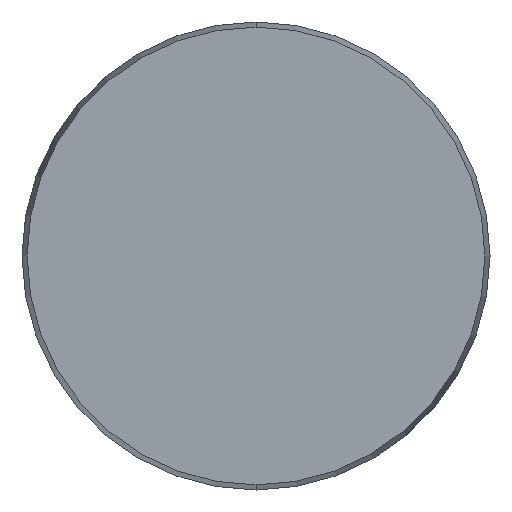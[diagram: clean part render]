
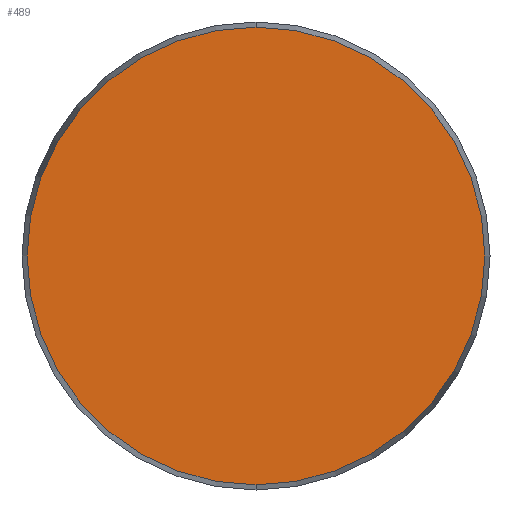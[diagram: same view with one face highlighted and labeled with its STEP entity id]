
A CAD part, front view. The second image highlights one B-rep face of the part: STEP entity #489.
In plain terms, the highlighted planar face has unit normal (0, -1, 0).
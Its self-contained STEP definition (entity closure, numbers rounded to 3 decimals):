
#20 = ORIENTED_EDGE ( 'NONE', *, *, #442, .F. ) ;
#32 = ORIENTED_EDGE ( 'NONE', *, *, #420, .F. ) ;
#59 = CARTESIAN_POINT ( 'NONE',  ( 0., 0., 0. ) ) ;
#60 = DIRECTION ( 'NONE',  ( 0., 1., 0. ) ) ;
#62 = DIRECTION ( 'NONE',  ( 0., 0., 1. ) ) ;
#94 = VERTEX_POINT ( 'NONE', #324 ) ;
#152 = CARTESIAN_POINT ( 'NONE',  ( 0., 0., -15.65 ) ) ;
#165 = FACE_OUTER_BOUND ( 'NONE', #349, .T. ) ;
#168 = PLANE ( 'NONE',  #467 ) ;
#169 = CARTESIAN_POINT ( 'NONE',  ( 15.65, 0., 0. ) ) ;
#187 = VERTEX_POINT ( 'NONE', #152 ) ;
#236 = CARTESIAN_POINT ( 'NONE',  ( 0., 0., 0. ) ) ;
#260 = DIRECTION ( 'NONE',  ( 0., 0., 1. ) ) ;
#264 = DIRECTION ( 'NONE',  ( 0., 1., 0. ) ) ;
#324 = CARTESIAN_POINT ( 'NONE',  ( 0., 0., 15.65 ) ) ;
#326 = DIRECTION ( 'NONE',  ( 0., 0., 1. ) ) ;
#332 = DIRECTION ( 'NONE',  ( 0., 1., 0. ) ) ;
#349 = EDGE_LOOP ( 'NONE', ( #20, #32 ) ) ;
#367 = AXIS2_PLACEMENT_3D ( 'NONE', #236, #332, #260 ) ;
#415 = CIRCLE ( 'NONE', #367, 15.65 ) ;
#420 = EDGE_CURVE ( 'NONE', #187, #94, #415, .T. ) ;
#442 = EDGE_CURVE ( 'NONE', #94, #187, #450, .T. ) ;
#450 = CIRCLE ( 'NONE', #473, 15.65 ) ;
#467 = AXIS2_PLACEMENT_3D ( 'NONE', #169, #264, #326 ) ;
#473 = AXIS2_PLACEMENT_3D ( 'NONE', #59, #60, #62 ) ;
#489 = ADVANCED_FACE ( '1', ( #165 ), #168, .F. ) ;
